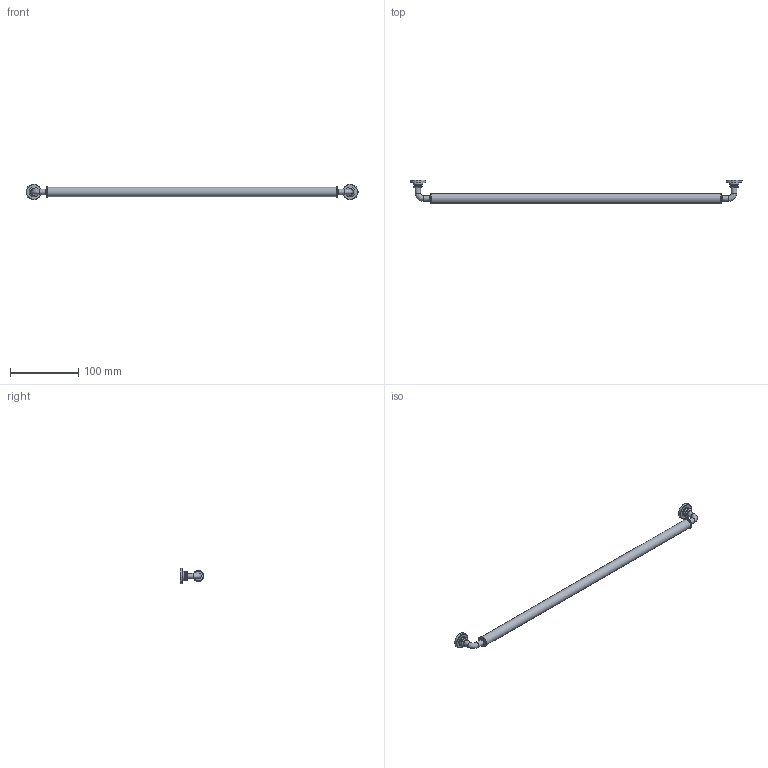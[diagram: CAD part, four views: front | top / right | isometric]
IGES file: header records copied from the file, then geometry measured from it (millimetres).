
Start section: Data from Parasolid IGES Translator 15.0.47, Copyright(c) 2006 Siemens P LM Software. All Rights Reserved.
Global section: file name: 9132276.igs; native system:  By UGS Corp.; preprocessor: XPlus GENERIC/IGES 3.0; author: Noname; organization: Noname; date: 20140122.102144; units: millimetre
Bounding box: 488 x 35 x 23 mm (x, y, z)
Surface area: 23720.1 mm2 (no closed solid volume)
Topology: 0 solids, 0 shells, 50 faces, 228 edges, 188 vertices
Faces by surface type: revolution 42, extrusion 8
